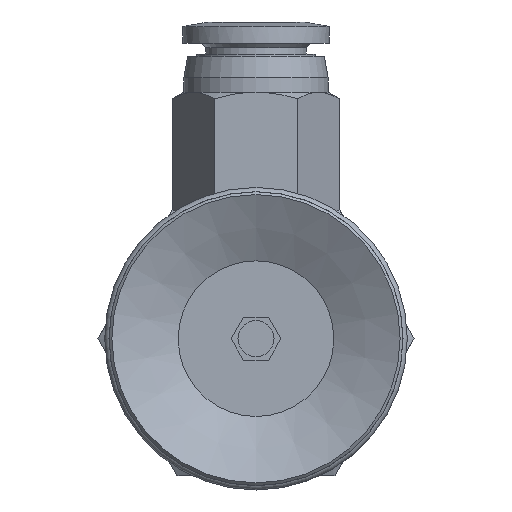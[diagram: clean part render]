
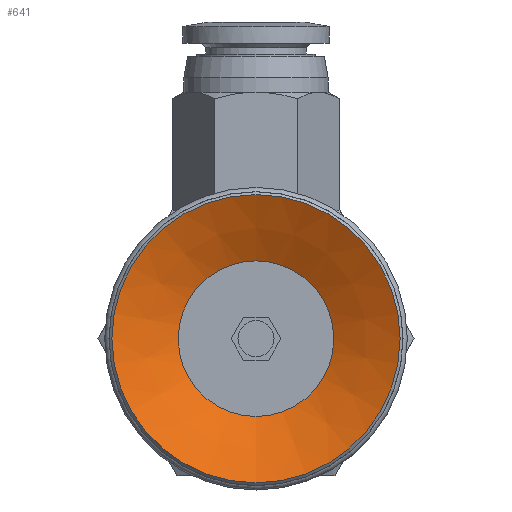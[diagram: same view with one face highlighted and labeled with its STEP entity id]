
A CAD part, front view. The second image highlights one B-rep face of the part: STEP entity #641.
In plain terms, the highlighted conical face has half-angle 63 degrees and reference radius 5.4 mm.
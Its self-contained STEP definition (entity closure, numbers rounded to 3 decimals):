
#641=ADVANCED_FACE('',(#1003,#1004),#1005,.F.);
#1003=FACE_BOUND('',#1442,.T.);
#1004=FACE_OUTER_BOUND('',#1443,.T.);
#1005=CONICAL_SURFACE('',#1444,5.4,1.1);
#1442=EDGE_LOOP('',(#2667));
#1443=EDGE_LOOP('',(#2668));
#1444=AXIS2_PLACEMENT_3D('',#2669,#2670,#2671);
#2667=ORIENTED_EDGE('',*,*,#3234,.F.);
#2668=ORIENTED_EDGE('',*,*,#3233,.T.);
#2669=CARTESIAN_POINT('',(0.0,5.518,0.0));
#2670=DIRECTION('',(-0.0,-1.0,0.));
#2671=DIRECTION('',(0.0,0.,-1.0));
#3233=EDGE_CURVE('',#3740,#3740,#3741,.T.);
#3234=EDGE_CURVE('',#3742,#3742,#3743,.T.);
#3740=VERTEX_POINT('',#4786);
#3741=CIRCLE('',#4787,10.0);
#3742=VERTEX_POINT('',#4788);
#3743=CIRCLE('',#4789,5.4);
#4786=CARTESIAN_POINT('',(0.0,3.175,-10.0));
#4787=AXIS2_PLACEMENT_3D('',#5621,#5622,#5623);
#4788=CARTESIAN_POINT('',(0.0,5.518,-5.4));
#4789=AXIS2_PLACEMENT_3D('',#5624,#5625,#5626);
#5621=CARTESIAN_POINT('',(0.0,3.175,0.0));
#5622=DIRECTION('',(0.0,-1.0,0.));
#5623=DIRECTION('',(0.0,0.,-1.0));
#5624=CARTESIAN_POINT('',(0.0,5.518,0.0));
#5625=DIRECTION('',(0.0,-1.0,0.));
#5626=DIRECTION('',(0.0,0.,-1.0));
